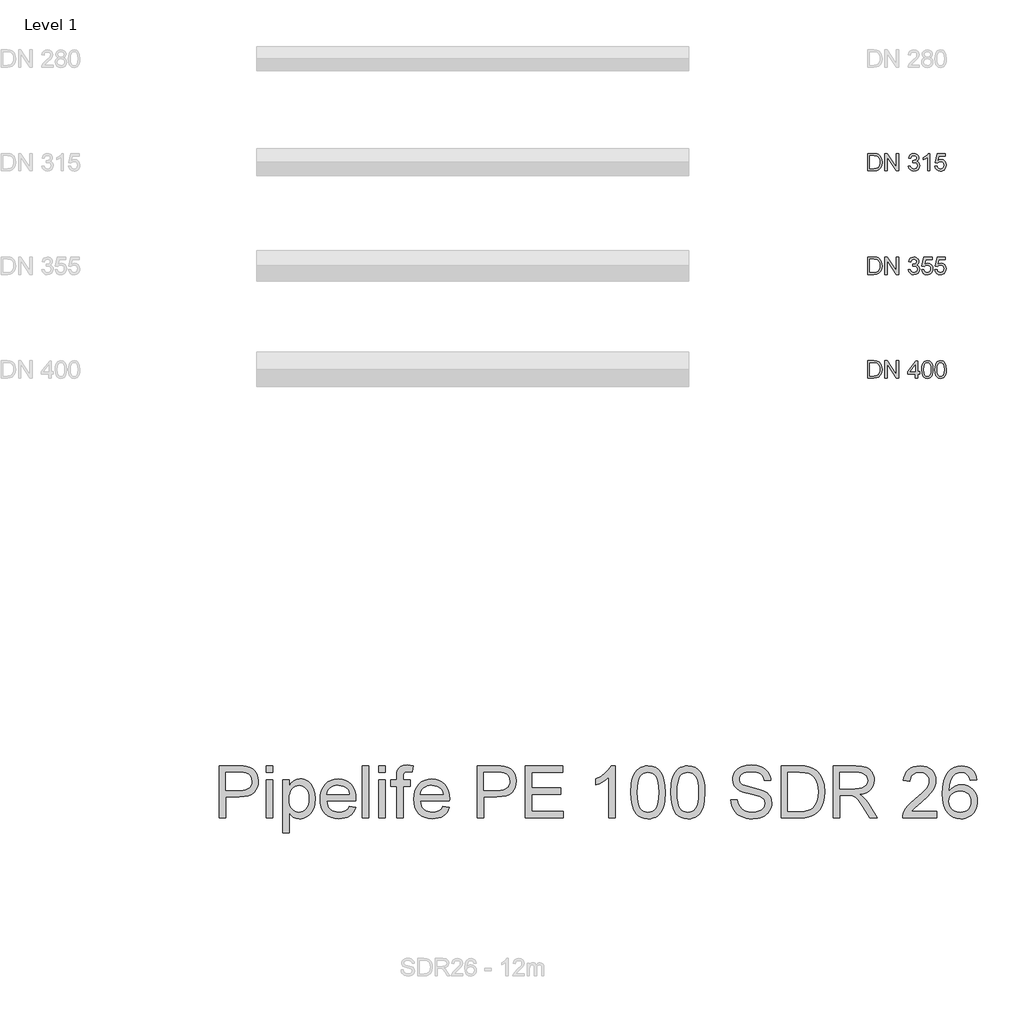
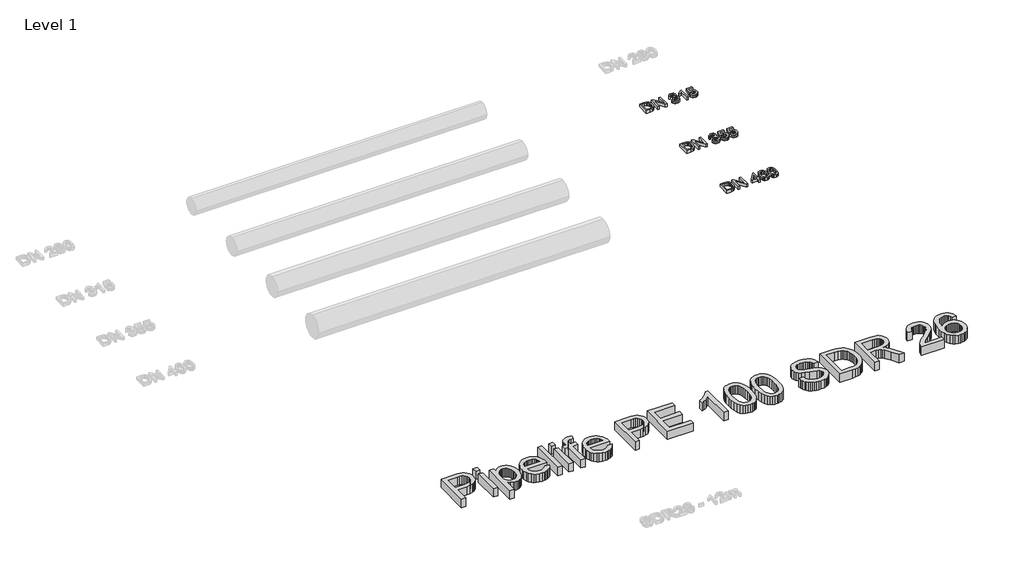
# One storey, part 7 of 26: 4 proxies.
"""IFC4 building model written with IfcOpenShell, lengths in millimetres."""

from ifc_helpers import new_model, si_unit, origin, origin_with_axes, place, context, project, spatial, polyline, outline, extrude, element, save

model = new_model("IFC4")

# Units and contexts
model_context = context("Model", 3, world=origin())
ifc_project = project(units=[si_unit("LENGTHUNIT", "METRE", prefix="MILLI")], contexts=[model_context])

# Site, building, storey
site = spatial("IfcSite", under=ifc_project)
building = spatial("IfcBuilding", under=site)
storey = spatial("IfcBuildingStorey", under=building, Name="Level 1", Elevation=0.0)

# Proxies
placement = place(None, origin())
element("IfcBuildingElementProxy", 1, Name="200mm Arial", ObjectType="200mm Arial", at=placement, inside=storey, context=model_context, shape_type="SweptSolid", body=[
    extrude(outline(polyline([(-9460.6923074, -82413.949573), (-9460.6923074, -82213.0369527), (-9391.3833395, -82213.0369527), (-9355.5271077, -82215.9309577), (-9339.5119782, -82221.5105013), (-9325.9984462, -82230.302881), (-9312.1047695, -82245.606772), (-9302.2087438, -82264.6385338), (-9296.2858437, -82287.0302846), (-9294.3115437, -82312.4141423), (-9299.6580953, -82352.9547382), (-9313.3923565, -82382.2136195), (-9331.7374053, -82400.436041), (-9355.7478369, -82410.5160077), (-9388.0478761, -82413.949573), (-9460.6923074, -82413.949573)]), holes=[polyline([(-9435.5782298, -82388.8354954), (-9391.1380848, -82388.8354954), (-9358.8135202, -82385.2057264), (-9340.1741658, -82374.9540815), (-9331.4492311, -82364.0831685), (-9324.8948002, -82350.0116822), (-9320.792916, -82332.6783089), (-9319.4256212, -82312.0217348), (-9322.1050284, -82284.6513144), (-9330.14325, -82264.4423301), (-9342.0197071, -82250.5609162), (-9356.2138207, -82242.1732067), (-9391.8247979, -82238.1510302), (-9435.5782298, -82238.1510302), (-9435.5782298, -82388.8354954)])]), origin_with_axes(), (0.0, 0.0, 1.0), 50.0),
    extrude(outline(polyline([(-9259.7796871, -82413.949573), (-9259.7796871, -82213.0369527), (-9232.899776, -82213.0369527), (-9127.93078, -82372.2072292), (-9127.93078, -82213.0369527), (-9102.8167025, -82213.0369527), (-9102.8167025, -82413.949573), (-9129.6966136, -82413.949573), (-9234.6656095, -82254.7302454), (-9234.6656095, -82413.949573), (-9259.7796871, -82413.949573)])), origin_with_axes(), (0.0, 0.0, 1.0), 50.0),
    extrude(outline(polyline([(-8989.8033535, -82360.5821582), (-8964.689276, -82357.4428985), (-8959.0668128, -82373.2250361), (-8950.8323875, -82383.8813512), (-8939.5813298, -82389.9514041), (-8924.9089696, -82391.9747551), (-8907.6920922, -82389.1911147), (-8894.3992895, -82380.8401934), (-8885.9012154, -82368.3812565), (-8883.068524, -82353.2735692), (-8885.8766899, -82338.9323028), (-8894.3011876, -82327.3011004), (-8907.0544301, -82319.5939726), (-8922.8488304, -82317.02493), (-8940.4581153, -82319.7717822), (-8937.6622121, -82294.6577047), (-8933.6400356, -82294.9520102), (-8918.593662, -82293.1493885), (-8905.1414437, -82287.7415231), (-8895.6500882, -82278.5935242), (-8892.4863031, -82265.5705016), (-8894.7794342, -82254.7241141), (-8901.6588275, -82245.925603), (-8912.1557271, -82240.0946734), (-8925.3013771, -82238.1510302), (-8938.4715525, -82240.1130675), (-8949.2382322, -82245.9991794), (-8957.0986442, -82255.809366), (-8961.5500163, -82269.5436271), (-8986.6640939, -82266.4043674), (-8979.2696657, -82243.8532011), (-8966.1117531, -82227.0164685), (-8948.1100608, -82216.5318316), (-8926.1842938, -82213.0369527), (-8910.3960249, -82214.7598667), (-8895.8953429, -82219.9286087), (-8883.6693979, -82228.0833263), (-8874.70534, -82238.7641669), (-8869.2055042, -82251.0698196), (-8867.3722255, -82264.0989736), (-8869.1135337, -82276.2390794), (-8874.337458, -82287.2510138), (-8882.9704221, -82296.6320047), (-8894.9388497, -82303.87928), (-8879.2180258, -82310.2313758), (-8867.5684293, -82321.0471064), (-8860.3579422, -82335.7378608), (-8857.9544465, -82353.7150276), (-8862.7614379, -82378.191443), (-8877.1824121, -82398.645682), (-8898.9487635, -82412.478045), (-8925.7918864, -82417.0888326), (-8950.0720981, -82413.1524953), (-8969.8396239, -82401.3434833), (-8983.5861478, -82383.2804773), (-8989.8033535, -82360.5821582)])), origin_with_axes(), (0.0, 0.0, 1.0), 50.0),
    extrude(outline(polyline([(-8741.8018379, -82413.949573), (-8766.9159154, -82413.949573), (-8766.9159154, -82257.3789958), (-8790.7056178, -82274.3260931), (-8817.1440705, -82287.0057592), (-8817.1440705, -82263.2651077), (-8780.3313455, -82239.769711), (-8766.8607331, -82226.1948653), (-8757.9886457, -82213.0369527), (-8741.8018379, -82213.0369527), (-8741.8018379, -82413.949573)])), origin_with_axes(), (0.0, 0.0, 1.0), 50.0),
    extrude(outline(polyline([(-8682.1559037, -82360.5821582), (-8657.0418262, -82357.4428985), (-8652.4310385, -82372.5199289), (-8644.3866855, -82383.3172655), (-8632.9455555, -82389.8103827), (-8618.1444366, -82391.9747551), (-8600.1427443, -82388.9642541), (-8586.6537378, -82379.9327511), (-8578.2292401, -82365.9225785), (-8575.4210742, -82347.9760685), (-8578.0514304, -82331.0780222), (-8585.9424992, -82318.1531014), (-8599.1555942, -82309.9493329), (-8617.7520291, -82307.2147434), (-8639.8004233, -82311.5802764), (-8653.9025665, -82322.9110419), (-8679.016644, -82319.7717822), (-8657.0418262, -82216.1762123), (-8559.7247757, -82216.1762123), (-8559.7247757, -82241.2902899), (-8636.73474, -82241.2902899), (-8647.4768943, -82296.619742), (-8629.5365157, -82285.7304349), (-8610.7377457, -82282.1006659), (-8587.2730058, -82286.601089), (-8567.7936541, -82300.1023582), (-8554.678661, -82320.6792244), (-8550.3069966, -82346.4064386), (-8554.243334, -82371.5205162), (-8566.052346, -82393.0048247), (-8576.487932, -82403.5415782), (-8588.664826, -82411.0678307), (-8602.5830282, -82415.5835821), (-8618.2425384, -82417.0888326), (-8642.9090262, -82413.2199403), (-8662.5600561, -82401.6132634), (-8676.0306685, -82383.6177025), (-8682.1559037, -82360.5821582)])), origin_with_axes(), (0.0, 0.0, 1.0), 50.0),
])
element("IfcBuildingElementProxy", 2, Name="200mm Arial", ObjectType="200mm Arial", at=placement, inside=storey, context=model_context, shape_type="SweptSolid", body=[
    extrude(outline(polyline([(-9460.6923074, -84813.949573), (-9460.6923074, -84613.0369527), (-9391.3833395, -84613.0369527), (-9355.5271077, -84615.9309577), (-9339.5119782, -84621.5105013), (-9325.9984462, -84630.302881), (-9312.1047695, -84645.606772), (-9302.2087438, -84664.6385338), (-9296.2858437, -84687.0302846), (-9294.3115437, -84712.4141423), (-9299.6580953, -84752.9547382), (-9313.3923565, -84782.2136195), (-9331.7374053, -84800.436041), (-9355.7478369, -84810.5160077), (-9388.0478761, -84813.949573), (-9460.6923074, -84813.949573)]), holes=[polyline([(-9435.5782298, -84788.8354954), (-9391.1380848, -84788.8354954), (-9358.8135202, -84785.2057264), (-9340.1741658, -84774.9540815), (-9331.4492311, -84764.0831685), (-9324.8948002, -84750.0116822), (-9320.792916, -84732.6783089), (-9319.4256212, -84712.0217348), (-9322.1050284, -84684.6513144), (-9330.14325, -84664.4423301), (-9342.0197071, -84650.5609162), (-9356.2138207, -84642.1732067), (-9391.8247979, -84638.1510302), (-9435.5782298, -84638.1510302), (-9435.5782298, -84788.8354954)])]), origin_with_axes(), (0.0, 0.0, 1.0), 50.0),
    extrude(outline(polyline([(-9259.7796871, -84813.949573), (-9259.7796871, -84613.0369527), (-9232.899776, -84613.0369527), (-9127.93078, -84772.2072292), (-9127.93078, -84613.0369527), (-9102.8167025, -84613.0369527), (-9102.8167025, -84813.949573), (-9129.6966136, -84813.949573), (-9234.6656095, -84654.7302454), (-9234.6656095, -84813.949573), (-9259.7796871, -84813.949573)])), origin_with_axes(), (0.0, 0.0, 1.0), 50.0),
    extrude(outline(polyline([(-8908.1826015, -84813.949573), (-8908.1826015, -84766.8606776), (-8999.2211326, -84766.8606776), (-8999.2211326, -84741.7466), (-8901.9040822, -84616.1762123), (-8883.068524, -84616.1762123), (-8883.068524, -84741.7466), (-8857.9544465, -84741.7466), (-8857.9544465, -84766.8606776), (-8883.068524, -84766.8606776), (-8883.068524, -84813.949573), (-8908.1826015, -84813.949573)]), holes=[polyline([(-8908.1826015, -84741.7466), (-8908.1826015, -84664.1480245), (-8968.319045, -84741.7466), (-8908.1826015, -84741.7466)])]), origin_with_axes(), (0.0, 0.0, 1.0), 50.0),
    extrude(outline(polyline([(-8835.9796286, -84715.1119436), (-8834.1340873, -84682.9529258), (-8828.5974633, -84657.3054194), (-8819.4249388, -84637.7770168), (-8806.6716963, -84623.9753106), (-8790.2457653, -84615.7715422), (-8770.0551751, -84613.0369527), (-8754.5796058, -84614.6556334), (-8740.7227173, -84619.5116758), (-8729.1344345, -84627.4150073), (-8720.4646821, -84638.1755557), (-8708.6924583, -84667.9004209), (-8704.1307216, -84715.1119436), (-8705.9578688, -84747.0870203), (-8711.4393105, -84772.6732131), (-8720.5566526, -84792.2200098), (-8733.291501, -84806.0768983), (-8749.7542203, -84814.335849), (-8770.0551751, -84817.0888326), (-8796.1502713, -84812.3063667), (-8815.9668481, -84797.9589689), (-8824.7224396, -84782.8298218), (-8830.9764335, -84763.9789353), (-8835.9796286, -84715.1119436)]), holes=[polyline([(-8810.8655511, -84715.0628927), (-8807.9224951, -84754.5672876), (-8799.0933272, -84777.4311536), (-8785.9476773, -84788.3388547), (-8770.0551751, -84791.9747551), (-8754.1626729, -84788.326592), (-8741.0170229, -84777.3821026), (-8732.1878551, -84754.5059739), (-8729.2447991, -84715.0628927), (-8732.0897532, -84676.4475459), (-8740.6246155, -84653.4058703), (-8753.74574, -84641.9647402), (-8770.3494807, -84638.1510302), (-8786.0703046, -84641.5110191), (-8798.7009198, -84651.5909857), (-8807.8243933, -84676.0674012), (-8810.8655511, -84715.0628927)])]), origin_with_axes(), (0.0, 0.0, 1.0), 50.0),
    extrude(outline(polyline([(-8682.1559037, -84715.1119436), (-8680.3103624, -84682.9529258), (-8674.7737383, -84657.3054194), (-8665.6012139, -84637.7770168), (-8652.8479714, -84623.9753106), (-8636.4220403, -84615.7715422), (-8616.2314502, -84613.0369527), (-8600.7558809, -84614.6556334), (-8586.8989924, -84619.5116758), (-8575.3107096, -84627.4150073), (-8566.6409572, -84638.1755557), (-8554.8687334, -84667.9004209), (-8550.3069966, -84715.1119436), (-8552.1341439, -84747.0870203), (-8557.6155856, -84772.6732131), (-8566.7329277, -84792.2200098), (-8579.4677761, -84806.0768983), (-8595.9304954, -84814.335849), (-8616.2314502, -84817.0888326), (-8642.3265464, -84812.3063667), (-8662.1431232, -84797.9589689), (-8670.8987147, -84782.8298218), (-8677.1527086, -84763.9789353), (-8682.1559037, -84715.1119436)]), holes=[polyline([(-8657.0418262, -84715.0628927), (-8654.0987702, -84754.5672876), (-8645.2696023, -84777.4311536), (-8632.1239524, -84788.3388547), (-8616.2314502, -84791.9747551), (-8600.338948, -84788.326592), (-8587.193298, -84777.3821026), (-8578.3641301, -84754.5059739), (-8575.4210742, -84715.0628927), (-8578.2660283, -84676.4475459), (-8586.8008906, -84653.4058703), (-8599.9220151, -84641.9647402), (-8616.5257558, -84638.1510302), (-8632.2465797, -84641.5110191), (-8644.8771949, -84651.5909857), (-8654.0006683, -84676.0674012), (-8657.0418262, -84715.0628927)])]), origin_with_axes(), (0.0, 0.0, 1.0), 50.0),
])
element("IfcBuildingElementProxy", 3, Name="200mm Arial", ObjectType="200mm Arial", at=placement, inside=storey, context=model_context, shape_type="SweptSolid", body=[
    extrude(outline(polyline([(-9460.6923074, -83613.949573), (-9460.6923074, -83413.0369527), (-9391.3833395, -83413.0369527), (-9355.5271077, -83415.9309577), (-9339.5119782, -83421.5105013), (-9325.9984462, -83430.302881), (-9312.1047695, -83445.606772), (-9302.2087438, -83464.6385338), (-9296.2858437, -83487.0302846), (-9294.3115437, -83512.4141423), (-9299.6580953, -83552.9547382), (-9313.3923565, -83582.2136195), (-9331.7374053, -83600.436041), (-9355.7478369, -83610.5160077), (-9388.0478761, -83613.949573), (-9460.6923074, -83613.949573)]), holes=[polyline([(-9435.5782298, -83588.8354954), (-9391.1380848, -83588.8354954), (-9358.8135202, -83585.2057264), (-9340.1741658, -83574.9540815), (-9331.4492311, -83564.0831685), (-9324.8948002, -83550.0116822), (-9320.792916, -83532.6783089), (-9319.4256212, -83512.0217348), (-9322.1050284, -83484.6513144), (-9330.14325, -83464.4423301), (-9342.0197071, -83450.5609162), (-9356.2138207, -83442.1732067), (-9391.8247979, -83438.1510302), (-9435.5782298, -83438.1510302), (-9435.5782298, -83588.8354954)])]), origin_with_axes(), (0.0, 0.0, 1.0), 50.0),
    extrude(outline(polyline([(-9259.7796871, -83613.949573), (-9259.7796871, -83413.0369527), (-9232.899776, -83413.0369527), (-9127.93078, -83572.2072292), (-9127.93078, -83413.0369527), (-9102.8167025, -83413.0369527), (-9102.8167025, -83613.949573), (-9129.6966136, -83613.949573), (-9234.6656095, -83454.7302454), (-9234.6656095, -83613.949573), (-9259.7796871, -83613.949573)])), origin_with_axes(), (0.0, 0.0, 1.0), 50.0),
    extrude(outline(polyline([(-8989.8033535, -83560.5821582), (-8964.689276, -83557.4428985), (-8959.0668128, -83573.2250361), (-8950.8323875, -83583.8813512), (-8939.5813298, -83589.9514041), (-8924.9089696, -83591.9747551), (-8907.6920922, -83589.1911147), (-8894.3992895, -83580.8401934), (-8885.9012154, -83568.3812565), (-8883.068524, -83553.2735692), (-8885.8766899, -83538.9323028), (-8894.3011876, -83527.3011004), (-8907.0544301, -83519.5939726), (-8922.8488304, -83517.02493), (-8940.4581153, -83519.7717822), (-8937.6622121, -83494.6577047), (-8933.6400356, -83494.9520102), (-8918.593662, -83493.1493885), (-8905.1414437, -83487.7415231), (-8895.6500882, -83478.5935242), (-8892.4863031, -83465.5705016), (-8894.7794342, -83454.7241141), (-8901.6588275, -83445.925603), (-8912.1557271, -83440.0946734), (-8925.3013771, -83438.1510302), (-8938.4715525, -83440.1130675), (-8949.2382322, -83445.9991794), (-8957.0986442, -83455.809366), (-8961.5500163, -83469.5436271), (-8986.6640939, -83466.4043674), (-8979.2696657, -83443.8532011), (-8966.1117531, -83427.0164685), (-8948.1100608, -83416.5318316), (-8926.1842938, -83413.0369527), (-8910.3960249, -83414.7598667), (-8895.8953429, -83419.9286087), (-8883.6693979, -83428.0833263), (-8874.70534, -83438.7641669), (-8869.2055042, -83451.0698196), (-8867.3722255, -83464.0989736), (-8869.1135337, -83476.2390794), (-8874.337458, -83487.2510138), (-8882.9704221, -83496.6320047), (-8894.9388497, -83503.87928), (-8879.2180258, -83510.2313758), (-8867.5684293, -83521.0471064), (-8860.3579422, -83535.7378608), (-8857.9544465, -83553.7150276), (-8862.7614379, -83578.191443), (-8877.1824121, -83598.645682), (-8898.9487635, -83612.478045), (-8925.7918864, -83617.0888326), (-8950.0720981, -83613.1524953), (-8969.8396239, -83601.3434833), (-8983.5861478, -83583.2804773), (-8989.8033535, -83560.5821582)])), origin_with_axes(), (0.0, 0.0, 1.0), 50.0),
    extrude(outline(polyline([(-8835.9796286, -83560.5821582), (-8810.8655511, -83557.4428985), (-8806.2547634, -83572.5199289), (-8798.2104105, -83583.3172655), (-8786.7692804, -83589.8103827), (-8771.9681615, -83591.9747551), (-8753.9664692, -83588.9642541), (-8740.4774627, -83579.9327511), (-8732.052965, -83565.9225785), (-8729.2447991, -83547.9760685), (-8731.8751554, -83531.0780222), (-8739.7662242, -83518.1531014), (-8752.9793191, -83509.9493329), (-8771.575754, -83507.2147434), (-8793.6241482, -83511.5802764), (-8807.7262914, -83522.9110419), (-8832.8403689, -83519.7717822), (-8810.8655511, -83416.1762123), (-8713.5485006, -83416.1762123), (-8713.5485006, -83441.2902899), (-8790.558465, -83441.2902899), (-8801.3006192, -83496.619742), (-8783.3602406, -83485.7304349), (-8764.5614706, -83482.1006659), (-8741.0967307, -83486.601089), (-8721.6173791, -83500.1023582), (-8708.5023859, -83520.6792244), (-8704.1307216, -83546.4064386), (-8708.0670589, -83571.5205162), (-8719.876071, -83593.0048247), (-8730.3116569, -83603.5415782), (-8742.4885509, -83611.0678307), (-8756.4067531, -83615.5835821), (-8772.0662633, -83617.0888326), (-8796.7327511, -83613.2199403), (-8816.383781, -83601.6132634), (-8829.8543934, -83583.6177025), (-8835.9796286, -83560.5821582)])), origin_with_axes(), (0.0, 0.0, 1.0), 50.0),
    extrude(outline(polyline([(-8682.1559037, -83560.5821582), (-8657.0418262, -83557.4428985), (-8652.4310385, -83572.5199289), (-8644.3866855, -83583.3172655), (-8632.9455555, -83589.8103827), (-8618.1444366, -83591.9747551), (-8600.1427443, -83588.9642541), (-8586.6537378, -83579.9327511), (-8578.2292401, -83565.9225785), (-8575.4210742, -83547.9760685), (-8578.0514304, -83531.0780222), (-8585.9424992, -83518.1531014), (-8599.1555942, -83509.9493329), (-8617.7520291, -83507.2147434), (-8639.8004233, -83511.5802764), (-8653.9025665, -83522.9110419), (-8679.016644, -83519.7717822), (-8657.0418262, -83416.1762123), (-8559.7247757, -83416.1762123), (-8559.7247757, -83441.2902899), (-8636.73474, -83441.2902899), (-8647.4768943, -83496.619742), (-8629.5365157, -83485.7304349), (-8610.7377457, -83482.1006659), (-8587.2730058, -83486.601089), (-8567.7936541, -83500.1023582), (-8554.678661, -83520.6792244), (-8550.3069966, -83546.4064386), (-8554.243334, -83571.5205162), (-8566.052346, -83593.0048247), (-8576.487932, -83603.5415782), (-8588.664826, -83611.0678307), (-8602.5830282, -83615.5835821), (-8618.2425384, -83617.0888326), (-8642.9090262, -83613.2199403), (-8662.5600561, -83601.6132634), (-8676.0306685, -83583.6177025), (-8682.1559037, -83560.5821582)])), origin_with_axes(), (0.0, 0.0, 1.0), 50.0),
])
element("IfcBuildingElementProxy", 4, Name="600mm Arial", ObjectType="600mm Arial", at=placement, inside=storey, context=model_context, shape_type="SweptSolid", body=[
    extrude(outline(polyline([(-16966.7426717, -89909.5373902), (-16966.7426717, -89306.7995293), (-16743.3647242, -89306.7995293), (-16691.3462101, -89308.2342691), (-16653.3072118, -89312.5384884), (-16613.152892, -89323.2622486), (-16580.0986947, -89340.7182492), (-16553.4824324, -89365.6974367), (-16532.6419174, -89398.9907573), (-16519.1774363, -89438.2621602), (-16514.689276, -89481.175595), (-16517.7197039, -89518.1753266), (-16526.8109877, -89552.2136083), (-16541.9631274, -89583.2904398), (-16563.176123, -89611.4058213), (-16592.2985814, -89634.7111457), (-16631.1791098, -89651.357806), (-16679.8177081, -89661.3458021), (-16738.2143763, -89664.6751342), (-16891.4004391, -89664.6751342), (-16891.4004391, -89909.5373902), (-16966.7426717, -89909.5373902)]), holes=[polyline([(-16891.4004391, -89589.3329016), (-16733.7997923, -89589.3329016), (-16697.5634158, -89587.6038562), (-16666.992422, -89582.4167201), (-16642.0868109, -89573.7714932), (-16622.8465826, -89561.6681755), (-16608.4899877, -89546.4286639), (-16598.2352771, -89528.374855), (-16592.0824507, -89507.5067488), (-16590.0315086, -89483.8243453), (-16594.8691569, -89449.9792018), (-16609.3821016, -89421.431559), (-16631.767721, -89399.9472504), (-16660.2233933, -89387.2921098), (-16689.2860709, -89383.4293489), (-16735.5656259, -89382.1417619), (-16891.4004391, -89382.1417619), (-16891.4004391, -89589.3329016)])]), origin_with_axes(), (0.0, 0.0, 1.0), 150.0),
    extrude(outline(polyline([(-16420.5114852, -89909.5373902), (-16420.5114852, -89466.9017736), (-16345.1692526, -89466.9017736), (-16345.1692526, -89909.5373902), (-16420.5114852, -89909.5373902)])), origin_with_axes(), (0.0, 0.0, 1.0), 150.0),
    extrude(outline(polyline([(-16420.5114852, -89382.1417619), (-16420.5114852, -89306.7995293), (-16345.1692526, -89306.7995293), (-16345.1692526, -89382.1417619), (-16420.5114852, -89382.1417619)])), origin_with_axes(), (0.0, 0.0, 1.0), 150.0),
    extrude(outline(polyline([(-16232.1559037, -90079.0574135), (-16232.1559037, -89466.9017736), (-16156.8136711, -89466.9017736), (-16156.8136711, -89540.7724782), (-16132.2391538, -89504.3337666), (-16104.7215806, -89478.3061154), (-16072.6422706, -89462.6895247), (-16034.3825431, -89457.4839945), (-16008.1065716, -89459.3050104), (-15983.4308868, -89464.768058), (-15960.3554886, -89473.8731374), (-15938.8803772, -89486.6202485), (-15919.4746019, -89502.6782976), (-15902.6072124, -89521.7161909), (-15888.2782087, -89543.7339283), (-15876.4875908, -89568.7315098), (-15860.7054532, -89624.2449029), (-15855.4447407, -89684.8350675), (-15861.3860349, -89749.269599), (-15868.8126527, -89778.9346834), (-15879.2099175, -89806.8983135), (-15892.4352753, -89832.429324), (-15908.3461716, -89854.7965493), (-15926.9426064, -89873.9999894), (-15948.2245798, -89890.0396444), (-15971.1482267, -89902.6901865), (-15994.6696817, -89911.726288), (-16018.788945, -89917.1479489), (-16043.5060166, -89918.9551692), (-16078.1421064, -89914.117521), (-16109.0625881, -89899.6045763), (-16135.5316977, -89877.6972035), (-16156.8136711, -89850.6762709), (-16156.8136711, -90079.0574135), (-16232.1559037, -90079.0574135)]), holes=[polyline([(-16156.8136711, -89691.751249), (-16154.7765246, -89728.0612019), (-16148.6650849, -89759.2943833), (-16138.4793522, -89785.4507932), (-16124.2193263, -89806.5304315), (-16107.0530327, -89822.7540275), (-16088.1484967, -89834.3423104), (-16067.5057182, -89841.2952801), (-16045.1246974, -89843.6129366), (-16022.4217797, -89841.2125066), (-16001.4019222, -89834.0112166), (-15982.0651249, -89822.0090665), (-15964.4113876, -89805.2060563), (-15949.7007063, -89783.3630629), (-15939.1930769, -89756.2409628), (-15932.8884992, -89723.8397561), (-15930.7869733, -89686.1594427), (-15932.8379154, -89650.1621895), (-15938.9907418, -89618.9841904), (-15949.2454524, -89592.6254454), (-15963.6020472, -89571.0859546), (-15980.8097276, -89554.3473238), (-15999.6176946, -89542.391159), (-16020.0259482, -89535.2174601), (-16042.0344886, -89532.8262271), (-16063.9740511, -89535.3692114), (-16084.6168295, -89542.9981643), (-16103.962824, -89555.7130857), (-16122.0120344, -89573.5139758), (-16137.2377504, -89596.1617111), (-16148.1132619, -89623.4171684), (-16154.6385688, -89655.2803477), (-16156.8136711, -89691.751249)])]), origin_with_axes(), (0.0, 0.0, 1.0), 150.0),
    extrude(outline(polyline([(-15460.7809362, -89777.6884831), (-15386.9102316, -89787.1062622), (-15398.2363985, -89816.6931716), (-15413.5264939, -89842.766808), (-15432.7805179, -89865.3271714), (-15455.9984703, -89884.3742617), (-15482.9412279, -89899.5034087), (-15513.3696674, -89910.3099424), (-15547.2837889, -89916.7938625), (-15584.6835922, -89918.9551692), (-15631.4321967, -89915.2257655), (-15673.0856356, -89904.0375543), (-15709.6439089, -89885.3905357), (-15741.1070165, -89859.2847096), (-15766.4081008, -89826.446643), (-15784.4803038, -89787.6029029), (-15795.3236256, -89742.7534891), (-15798.9380662, -89691.8984018), (-15795.2868374, -89639.3188677), (-15784.333151, -89592.9749333), (-15766.077007, -89552.8665988), (-15740.5184054, -89518.9938641), (-15709.1380712, -89492.0832961), (-15673.4167294, -89472.8614619), (-15633.3543802, -89461.3283613), (-15588.9510233, -89457.4839945), (-15545.9778078, -89461.3191643), (-15507.1156735, -89472.8246737), (-15472.3646205, -89492.0005227), (-15441.7246489, -89518.8467113), (-15416.7132717, -89552.6458696), (-15398.8480023, -89592.6806277), (-15388.1288407, -89638.9509857), (-15384.5557868, -89691.4569434), (-15384.9972452, -89711.7640296), (-15723.5958336, -89711.7640296), (-15719.2318334, -89741.8291856), (-15710.5544169, -89768.1603394), (-15697.5635839, -89790.757491), (-15680.2593345, -89809.6206403), (-15659.598162, -89824.4922699), (-15636.5365594, -89835.1148625), (-15611.0745268, -89841.4884181), (-15583.2120642, -89843.6129366), (-15543.1129267, -89839.6765993), (-15509.3413596, -89827.8675872), (-15481.8973627, -89807.4501365), (-15460.7809362, -89777.6884831)]), holes=[polyline([(-15723.5958336, -89636.4217969), (-15459.8980194, -89636.4217969), (-15470.0883507, -89596.6169651), (-15478.8531392, -89580.9635862), (-15490.064343, -89568.1428986), (-15510.6105525, -89552.6918548), (-15533.9894533, -89541.655395), (-15560.2010454, -89535.0335191), (-15589.2453289, -89532.8262271), (-15615.7374311, -89534.5874622), (-15640.0314384, -89539.8711673), (-15662.1273507, -89548.6773426), (-15682.0251681, -89561.0059879), (-15698.7224122, -89576.2868863), (-15711.2166044, -89593.9498206), (-15719.5077449, -89613.9947908), (-15723.5958336, -89636.4217969)])]), origin_with_axes(), (0.0, 0.0, 1.0), 150.0),
    extrude(outline(polyline([(-15309.2135542, -89909.5373902), (-15309.2135542, -89306.7995293), (-15233.8713216, -89306.7995293), (-15233.8713216, -89909.5373902), (-15309.2135542, -89909.5373902)])), origin_with_axes(), (0.0, 0.0, 1.0), 150.0),
    extrude(outline(polyline([(-15120.8579727, -89382.1417619), (-15120.8579727, -89306.7995293), (-15045.5157401, -89306.7995293), (-15045.5157401, -89382.1417619), (-15120.8579727, -89382.1417619)])), origin_with_axes(), (0.0, 0.0, 1.0), 150.0),
    extrude(outline(polyline([(-15120.8579727, -89909.5373902), (-15120.8579727, -89466.9017736), (-15045.5157401, -89466.9017736), (-15045.5157401, -89909.5373902), (-15120.8579727, -89909.5373902)])), origin_with_axes(), (0.0, 0.0, 1.0), 150.0),
    extrude(outline(polyline([(-14913.666833, -89909.5373902), (-14913.666833, -89542.2440062), (-14979.5912865, -89542.2440062), (-14979.5912865, -89466.9017736), (-14913.666833, -89466.9017736), (-14913.666833, -89422.3144758), (-14911.6802702, -89385.4159116), (-14905.7205819, -89359.480231), (-14890.5638437, -89334.4274671), (-14867.1665488, -89314.5986276), (-14834.4250512, -89301.6859695), (-14791.235705, -89297.3817502), (-14758.5309956, -89299.4418894), (-14722.5153483, -89305.6223069), (-14733.5518082, -89376.25565), (-14776.9618836, -89372.7239828), (-14805.6014969, -89375.8509798), (-14824.418661, -89385.2319706), (-14834.8481155, -89403.1478238), (-14838.3246004, -89431.8794076), (-14838.3246004, -89466.9017736), (-14753.5645887, -89466.9017736), (-14753.5645887, -89542.2440062), (-14838.3246004, -89542.2440062), (-14838.3246004, -89909.5373902), (-14913.666833, -89909.5373902)])), origin_with_axes(), (0.0, 0.0, 1.0), 150.0),
    extrude(outline(polyline([(-14377.7363424, -89777.6884831), (-14303.8656378, -89787.1062622), (-14315.1918047, -89816.6931716), (-14330.4819001, -89842.766808), (-14349.7359241, -89865.3271714), (-14372.9538765, -89884.3742617), (-14399.8966341, -89899.5034087), (-14430.3250736, -89910.3099424), (-14464.2391951, -89916.7938625), (-14501.6389984, -89918.9551692), (-14548.3876029, -89915.2257655), (-14590.0410418, -89904.0375543), (-14626.5993151, -89885.3905357), (-14658.0624227, -89859.2847096), (-14683.363507, -89826.446643), (-14701.43571, -89787.6029029), (-14712.2790318, -89742.7534891), (-14715.8934724, -89691.8984018), (-14712.2422436, -89639.3188677), (-14701.2885572, -89592.9749333), (-14683.0324132, -89552.8665988), (-14657.4738116, -89518.9938641), (-14626.0934774, -89492.0832961), (-14590.3721356, -89472.8614619), (-14550.3097864, -89461.3283613), (-14505.9064295, -89457.4839945), (-14462.933214, -89461.3191643), (-14424.0710797, -89472.8246737), (-14389.3200267, -89492.0005227), (-14358.6800551, -89518.8467113), (-14333.6686779, -89552.6458696), (-14315.8034085, -89592.6806277), (-14305.0842469, -89638.9509857), (-14301.511193, -89691.4569434), (-14301.9526514, -89711.7640296), (-14640.5512398, -89711.7640296), (-14636.1872396, -89741.8291856), (-14627.509823, -89768.1603394), (-14614.5189901, -89790.757491), (-14597.2147407, -89809.6206403), (-14576.5535682, -89824.4922699), (-14553.4919656, -89835.1148625), (-14528.029933, -89841.4884181), (-14500.1674704, -89843.6129366), (-14460.0683329, -89839.6765993), (-14426.2967658, -89827.8675872), (-14398.8527689, -89807.4501365), (-14377.7363424, -89777.6884831)]), holes=[polyline([(-14640.5512398, -89636.4217969), (-14376.8534256, -89636.4217969), (-14387.0437569, -89596.6169651), (-14395.8085454, -89580.9635862), (-14407.0197492, -89568.1428986), (-14427.5659587, -89552.6918548), (-14450.9448595, -89541.655395), (-14477.1564516, -89535.0335191), (-14506.2007351, -89532.8262271), (-14532.6928373, -89534.5874622), (-14556.9868446, -89539.8711673), (-14579.0827569, -89548.6773426), (-14598.9805743, -89561.0059879), (-14615.6778184, -89576.2868863), (-14628.1720106, -89593.9498206), (-14636.4631511, -89613.9947908), (-14640.5512398, -89636.4217969)])]), origin_with_axes(), (0.0, 0.0, 1.0), 150.0),
    extrude(outline(polyline([(-13981.3067044, -89909.5373902), (-13981.3067044, -89306.7995293), (-13757.928757, -89306.7995293), (-13705.9102428, -89308.2342691), (-13667.8712445, -89312.5384884), (-13627.7169248, -89323.2622486), (-13594.6627275, -89340.7182492), (-13568.0464651, -89365.6974367), (-13547.2059501, -89398.9907573), (-13533.7414691, -89438.2621602), (-13529.2533087, -89481.175595), (-13532.2837367, -89518.1753266), (-13541.3750205, -89552.2136083), (-13556.5271602, -89583.2904398), (-13577.7401557, -89611.4058213), (-13606.8626142, -89634.7111457), (-13645.7431425, -89651.357806), (-13694.3817408, -89661.3458021), (-13752.778409, -89664.6751342), (-13905.9644718, -89664.6751342), (-13905.9644718, -89909.5373902), (-13981.3067044, -89909.5373902)]), holes=[polyline([(-13905.9644718, -89589.3329016), (-13748.3638251, -89589.3329016), (-13712.1274486, -89587.6038562), (-13681.5564548, -89582.4167201), (-13656.6508437, -89573.7714932), (-13637.4106153, -89561.6681755), (-13623.0540205, -89546.4286639), (-13612.7993099, -89528.374855), (-13606.6464835, -89507.5067488), (-13604.5955414, -89483.8243453), (-13609.4331896, -89449.9792018), (-13623.9461343, -89421.431559), (-13646.3317537, -89399.9472504), (-13674.787426, -89387.2921098), (-13703.8501037, -89383.4293489), (-13750.1296587, -89382.1417619), (-13905.9644718, -89382.1417619), (-13905.9644718, -89589.3329016)])]), origin_with_axes(), (0.0, 0.0, 1.0), 150.0),
    extrude(outline(polyline([(-13425.6577389, -89909.5373902), (-13425.6577389, -89306.7995293), (-12992.4399014, -89306.7995293), (-12992.4399014, -89382.1417619), (-13350.3155063, -89382.1417619), (-13350.3155063, -89561.0795643), (-13011.2754595, -89561.0795643), (-13011.2754595, -89636.4217969), (-13350.3155063, -89636.4217969), (-13350.3155063, -89834.1951576), (-12983.0221223, -89834.1951576), (-12983.0221223, -89909.5373902), (-13425.6577389, -89909.5373902)])), origin_with_axes(), (0.0, 0.0, 1.0), 150.0),
    extrude(outline(polyline([(-12380.2842614, -89909.5373902), (-12455.626494, -89909.5373902), (-12455.626494, -89439.8256587), (-12487.0804046, -89465.2646987), (-12526.9956011, -89490.6669505), (-12568.8973603, -89512.8686289), (-12606.3109592, -89528.7059488), (-12606.3109592, -89457.4839945), (-12547.1371403, -89425.2943199), (-12495.8727843, -89386.9978042), (-12455.4609471, -89346.2732674), (-12428.8446848, -89306.7995293), (-12380.2842614, -89306.7995293), (-12380.2842614, -89909.5373902)])), origin_with_axes(), (0.0, 0.0, 1.0), 150.0),
    extrude(outline(polyline([(-12201.346459, -89613.0245021), (-12195.8098349, -89516.5474488), (-12188.8890549, -89475.6343724), (-12179.1999628, -89439.6049295), (-12166.7839455, -89408.1648145), (-12151.6823896, -89381.0197218), (-12133.8952951, -89358.1696514), (-12113.4226621, -89339.6146032), (-12090.1955126, -89325.2580084), (-12064.1448689, -89315.0032978), (-12035.2707308, -89308.8504714), (-12003.5730984, -89306.7995293), (-11957.1463906, -89311.6555716), (-11915.5757251, -89326.2236986), (-11880.8108766, -89349.9336932), (-11854.8016195, -89382.2153383), (-11835.156721, -89422.7927223), (-11819.484948, -89471.3899339), (-11809.2210403, -89533.1021386), (-11805.7997377, -89613.0245021), (-11811.2811795, -89708.9497323), (-11818.1329816, -89749.7248529), (-11827.7255047, -89785.7083106), (-11840.044953, -89817.1622212), (-11855.077531, -89844.3487006), (-11872.8232387, -89867.2677489), (-11893.2820762, -89885.9193661), (-11916.5368168, -89900.37253), (-11942.670234, -89910.6962185), (-11971.6823279, -89916.8904315), (-12003.5730984, -89918.9551692), (-12045.0701874, -89915.3683198), (-12081.8583869, -89904.6077714), (-12113.9376969, -89886.6735242), (-12141.3081173, -89861.565578), (-12167.5748918, -89816.1781368), (-12186.3368736, -89759.6254771), (-12197.5940626, -89691.9075989), (-12201.346459, -89613.0245021)]), holes=[polyline([(-12126.0042263, -89612.8773493), (-12123.7969344, -89678.37414), (-12117.1750585, -89731.390534), (-12106.1385986, -89771.9265313), (-12090.6875548, -89799.982132), (-12071.9991495, -89819.070609), (-12051.2506049, -89832.7052355), (-12028.4419212, -89840.8860113), (-12003.5730984, -89843.6129366), (-11978.7042755, -89840.8768143), (-11955.8955918, -89832.6684473), (-11935.1470472, -89818.9878356), (-11916.4586419, -89799.8349792), (-11901.0075981, -89771.7333933), (-11889.9711382, -89731.206593), (-11883.3492623, -89678.2545783), (-11881.1419704, -89612.8773493), (-11883.2756859, -89549.1142024), (-11889.6768326, -89497.031309), (-11900.3454105, -89456.6286689), (-11915.2814195, -89427.9062821), (-11933.6571252, -89407.8843045), (-11954.644793, -89393.5828919), (-11978.244423, -89385.0020444), (-12004.4560151, -89382.1417619), (-12029.1960793, -89384.6617535), (-12051.6184869, -89392.2217286), (-12071.723238, -89404.8216869), (-12089.5103324, -89422.4616286), (-12105.476411, -89453.7315981), (-12116.8807529, -89495.8908748), (-12123.723358, -89548.9394585), (-12126.0042263, -89612.8773493)])]), origin_with_axes(), (0.0, 0.0, 1.0), 150.0),
    extrude(outline(polyline([(-11739.8752842, -89613.0245021), (-11734.3386602, -89516.5474488), (-11727.4178801, -89475.6343724), (-11717.7287881, -89439.6049295), (-11705.3127708, -89408.1648145), (-11690.2112149, -89381.0197218), (-11672.4241204, -89358.1696514), (-11651.9514874, -89339.6146032), (-11628.7243379, -89325.2580084), (-11602.6736941, -89315.0032978), (-11573.799556, -89308.8504714), (-11542.1019236, -89306.7995293), (-11495.6752158, -89311.6555716), (-11454.1045504, -89326.2236986), (-11419.3397018, -89349.9336932), (-11393.3304448, -89382.2153383), (-11373.6855462, -89422.7927223), (-11358.0137732, -89471.3899339), (-11347.7498655, -89533.1021386), (-11344.328563, -89613.0245021), (-11349.8100047, -89708.9497323), (-11356.6618069, -89749.7248529), (-11366.2543299, -89785.7083106), (-11378.5737782, -89817.1622212), (-11393.6063562, -89844.3487006), (-11411.352064, -89867.2677489), (-11431.8109014, -89885.9193661), (-11455.0656421, -89900.37253), (-11481.1990593, -89910.6962185), (-11510.2111531, -89916.8904315), (-11542.1019236, -89918.9551692), (-11583.5990127, -89915.3683198), (-11620.3872122, -89904.6077714), (-11652.4665222, -89886.6735242), (-11679.8369426, -89861.565578), (-11706.1037171, -89816.1781368), (-11724.8656988, -89759.6254771), (-11736.1228879, -89691.9075989), (-11739.8752842, -89613.0245021)]), holes=[polyline([(-11664.5330516, -89612.8773493), (-11662.3257596, -89678.37414), (-11655.7038837, -89731.390534), (-11644.6674239, -89771.9265313), (-11629.2163801, -89799.982132), (-11610.5279747, -89819.070609), (-11589.7794302, -89832.7052355), (-11566.9707465, -89840.8860113), (-11542.1019236, -89843.6129366), (-11517.2331007, -89840.8768143), (-11494.424417, -89832.6684473), (-11473.6758725, -89818.9878356), (-11454.9874671, -89799.8349792), (-11439.5364233, -89771.7333933), (-11428.4999635, -89731.206593), (-11421.8780876, -89678.2545783), (-11419.6707956, -89612.8773493), (-11421.8045112, -89549.1142024), (-11428.2056579, -89497.031309), (-11438.8742358, -89456.6286689), (-11453.8102448, -89427.9062821), (-11472.1859504, -89407.8843045), (-11493.1736182, -89393.5828919), (-11516.7732482, -89385.0020444), (-11542.9848404, -89382.1417619), (-11567.7249046, -89384.6617535), (-11590.1473122, -89392.2217286), (-11610.2520632, -89404.8216869), (-11628.0391577, -89422.4616286), (-11644.0052363, -89453.7315981), (-11655.4095781, -89495.8908748), (-11662.2521832, -89548.9394585), (-11664.5330516, -89612.8773493)])]), origin_with_axes(), (0.0, 0.0, 1.0), 150.0),
    extrude(outline(polyline([(-11042.9596325, -89702.3462505), (-10967.6173999, -89702.3462505), (-10958.972173, -89744.1560392), (-10943.3371883, -89777.7620595), (-10918.946612, -89804.4335041), (-10884.0346106, -89825.4395661), (-10841.3602992, -89839.069594), (-10793.6827926, -89843.6129366), (-10751.707457, -89840.17324), (-10714.9560456, -89829.85415), (-10685.1759981, -89813.5201894), (-10664.1147539, -89792.0358809), (-10651.588372, -89767.3693931), (-10647.4129113, -89741.4888948), (-10650.5399083, -89716.270584), (-10659.9208992, -89694.4735758), (-10678.9771865, -89675.8771409), (-10711.1300729, -89660.2605502), (-10820.8324839, -89631.4921782), (-10892.8453844, -89612.454285), (-10938.9226043, -89594.3360967), (-10976.4281737, -89568.9890272), (-11003.0076479, -89538.2708806), (-11018.8449678, -89502.8438445), (-11024.1240744, -89463.3701064), (-11022.491598, -89440.9339032), (-11017.594169, -89419.2426611), (-11009.4317872, -89398.29638), (-10998.0044527, -89378.0950599), (-10983.4409243, -89359.4618369), (-10965.8699605, -89343.2198468), (-10945.2915614, -89329.3690897), (-10921.7057269, -89317.9095655), (-10868.6939314, -89302.513704), (-10810.0167532, -89297.3817502), (-10746.4467444, -89302.7528273), (-10690.8229868, -89318.8660587), (-10666.4875928, -89330.8682088), (-10645.132043, -89345.3903506), (-10626.7563373, -89362.432484), (-10611.3604758, -89381.9946091), (-10599.0640201, -89403.5065088), (-10589.9865319, -89426.3979659), (-10584.1280111, -89450.6689805), (-10581.4884578, -89476.3195526), (-10656.8306904, -89476.3195526), (-10661.8706737, -89452.2784643), (-10670.6630534, -89431.3643728), (-10683.2078295, -89413.5772784), (-10699.5050018, -89398.9171809), (-10719.8580732, -89387.4576567), (-10744.5705463, -89379.2722823), (-10773.6424209, -89374.3610577), (-10807.0736972, -89372.7239828), (-10841.5718313, -89374.3426636), (-10871.0483762, -89379.1987059), (-10895.5033318, -89387.2921098), (-10914.9366982, -89398.6228753), (-10929.7439485, -89412.2437061), (-10940.3205559, -89427.2073063), (-10946.6665203, -89443.5136757), (-10948.7818418, -89461.1628144), (-10947.2827227, -89476.3471438), (-10942.7853653, -89490.1151275), (-10935.2897696, -89502.4667655), (-10924.7959357, -89513.4020578), (-10908.2780341, -89523.7579359), (-10882.2687771, -89534.2241787), (-10801.7761965, -89555.487758), (-10718.708442, -89575.6844795), (-10668.4557615, -89593.3060271), (-10625.5055385, -89620.6396594), (-10608.900265, -89636.7069055), (-10595.54155, -89654.3744383), (-10585.2730438, -89673.5502873), (-10577.9383965, -89694.142482), (-10572.0706787, -89739.5759084), (-10573.7583374, -89763.1433487), (-10578.8213133, -89786.0210103), (-10587.2596066, -89808.2088931), (-10599.0732172, -89829.7069972), (-10614.0552114, -89849.6829896), (-10631.9986557, -89867.3045371), (-10652.9035501, -89882.5716399), (-10676.7698945, -89895.484298), (-10702.9033118, -89905.7528041), (-10730.6094245, -89913.0874514), (-10790.7397367, -89918.9551692), (-10829.2799742, -89917.3732767), (-10864.555259, -89912.6275989), (-10896.5655911, -89904.718136), (-10925.3109705, -89893.644888), (-10950.9661411, -89879.3894607), (-10973.705847, -89861.93346), (-10993.530088, -89841.276886), (-11010.4388642, -89817.4197386), (-11024.059695, -89791.13457), (-11034.0201001, -89763.1939325), (-11040.3200792, -89733.597826), (-11042.9596325, -89702.3462505)])), origin_with_axes(), (0.0, 0.0, 1.0), 150.0),
    extrude(outline(polyline([(-10459.0573298, -89909.5373902), (-10459.0573298, -89306.7995293), (-10251.1304261, -89306.7995293), (-10188.9951571, -89308.970033), (-10143.5617307, -89315.4815444), (-10095.5163422, -89332.2201751), (-10054.9757463, -89358.5973142), (-10032.6361121, -89380.1551991), (-10013.2947162, -89404.5089872), (-9996.9515586, -89431.6586784), (-9983.6066392, -89461.6042728), (-9973.241564, -89494.0698589), (-9965.8379389, -89528.7795252), (-9959.9150387, -89604.9310982), (-9963.9249525, -89669.623147), (-9975.9546937, -89726.5528858), (-9994.2752171, -89775.0213386), (-10017.1574772, -89814.3295298), (-10043.497828, -89845.3603761), (-10072.1926237, -89868.9967943), (-10105.1364563, -89886.5263714), (-10144.2239183, -89899.2366943), (-10189.528586, -89906.9622162), (-10241.1240359, -89909.5373902), (-10459.0573298, -89909.5373902)]), holes=[polyline([(-10383.7150972, -89834.1951576), (-10250.3946621, -89834.1951576), (-10195.2491511, -89831.4728308), (-10153.4209682, -89823.3058505), (-10121.856693, -89810.1724633), (-10097.5029049, -89792.5509157), (-10071.328101, -89759.9381768), (-10051.6648083, -89717.7237179), (-10039.3591556, -89665.7235979), (-10035.2572714, -89603.7538758), (-10037.2668268, -89560.0127066), (-10043.295493, -89521.6426145), (-10053.3432699, -89488.6435995), (-10067.4101577, -89461.0156616), (-10084.3557221, -89438.1334015), (-10103.039529, -89419.3714198), (-10123.4615782, -89404.7297164), (-10145.6218699, -89394.2082913), (-10188.9583689, -89385.1583942), (-10252.4548013, -89382.1417619), (-10383.7150972, -89382.1417619), (-10383.7150972, -89834.1951576)])]), origin_with_axes(), (0.0, 0.0, 1.0), 150.0),
    extrude(outline(polyline([(-9856.3194689, -89909.5373902), (-9856.3194689, -89306.7995293), (-9596.5947803, -89306.7995293), (-9526.7891717, -89310.8646253), (-9476.0030623, -89323.0599135), (-9456.404149, -89332.753604), (-9438.883769, -89345.5742916), (-9423.4419222, -89361.5219761), (-9410.0786088, -89380.5966575), (-9399.2950678, -89401.7728649), (-9391.5925385, -89424.025127), (-9386.9710209, -89447.3534441), (-9385.4305151, -89471.7578159), (-9387.9826964, -89502.7150858), (-9395.6392404, -89531.1339699), (-9408.4001472, -89557.0144683), (-9426.2654165, -89580.3565809), (-9449.4649749, -89600.4153467), (-9478.2287484, -89616.4458046), (-9512.556737, -89628.4479547), (-9552.4489409, -89636.4217969), (-9527.6169062, -89652.6453929), (-9509.6274766, -89668.6482597), (-9478.7621773, -89705.2525182), (-9448.5590654, -89746.1977843), (-9348.0537044, -89909.5373902), (-9435.6096192, -89909.5373902), (-9514.0420606, -89784.6046646), (-9570.6958878, -89701.9047921), (-9591.7571321, -89677.7901273), (-9610.5007197, -89662.8357242), (-9646.3324261, -89648.4883264), (-9690.0368071, -89645.839576), (-9780.9772363, -89645.839576), (-9780.9772363, -89909.5373902), (-9856.3194689, -89909.5373902)]), holes=[polyline([(-9780.9772363, -89570.4973434), (-9612.3401297, -89570.4973434), (-9563.908465, -89567.8301989), (-9526.3293192, -89559.8287656), (-9498.0391938, -89545.9596143), (-9477.4745903, -89525.6893164), (-9464.9482083, -89501.1699814), (-9460.7727477, -89474.5537191), (-9462.763909, -89455.2858996), (-9468.7373929, -89437.8023078), (-9478.6931994, -89422.1029436), (-9492.6313285, -89408.1878071), (-9510.8736769, -89396.7926623), (-9533.7421414, -89388.6532732), (-9561.236722, -89383.7696397), (-9593.3574188, -89382.1417619), (-9780.9772363, -89382.1417619), (-9780.9772363, -89570.4973434)])]), origin_with_axes(), (0.0, 0.0, 1.0), 150.0),
    extrude(outline(polyline([(-8660.2615262, -89834.1951576), (-8660.2615262, -89909.5373902), (-9055.8082474, -89909.5373902), (-9054.1527784, -89883.0130983), (-9047.7148435, -89857.5924524), (-9029.1368027, -89816.9966743), (-9001.9503233, -89777.6149067), (-8962.623738, -89736.3937291), (-8907.6253797, -89690.279721), (-8826.3234588, -89618.0644854), (-8777.5423062, -89564.7583843), (-8763.3144701, -89542.9797702), (-8753.15173, -89521.4954617), (-8747.0540859, -89500.3054587), (-8745.0215379, -89479.4097614), (-8746.9391228, -89459.7510673), (-8752.6918775, -89441.6834628), (-8762.279802, -89425.2069479), (-8775.7028963, -89410.3215227), (-8792.2161993, -89397.9928774), (-8811.0747501, -89389.1867021), (-8832.2785486, -89383.9029969), (-8855.8275948, -89382.1417619), (-8880.6366369, -89383.8616102), (-8902.8245197, -89389.0211552), (-8922.3912433, -89397.6203968), (-8939.3368077, -89409.6593351), (-8953.0450106, -89424.7332999), (-8962.8996495, -89442.4376209), (-8968.9007246, -89462.7722982), (-8971.0482357, -89485.7373317), (-9046.3904683, -89476.3195526), (-9039.9111467, -89437.4252287), (-9028.1251273, -89403.4421294), (-9011.0324101, -89374.3702547), (-8988.6329951, -89350.2096047), (-8961.4419171, -89331.2176967), (-8929.9742109, -89317.6520481), (-8894.2298766, -89309.512659), (-8854.208914, -89306.7995293), (-8813.8292665, -89309.8161616), (-8777.8917941, -89318.8660587), (-8746.3964968, -89333.9492205), (-8719.3433746, -89355.065647), (-8697.6153443, -89380.6518398), (-8682.0953226, -89409.1443003), (-8672.7833096, -89440.5430286), (-8669.6793053, -89474.8480247), (-8673.0270314, -89510.8820661), (-8683.0702099, -89546.2907081), (-8700.8940926, -89582.3063555), (-8727.5839313, -89620.1614128), (-8770.129484, -89665.3557159), (-8835.5205087, -89723.3891006), (-8922.1935068, -89795.8618537), (-8956.1858031, -89834.1951576), (-8660.2615262, -89834.1951576)])), origin_with_axes(), (0.0, 0.0, 1.0), 150.0),
    extrude(outline(polyline([(-8198.7903514, -89466.9017736), (-8274.132584, -89476.3195526), (-8286.2726899, -89438.9795301), (-8302.6802269, -89413.4853079), (-8318.8762317, -89399.7725065), (-8336.8564642, -89389.9776484), (-8356.6209244, -89384.1007335), (-8378.1696123, -89382.1417619), (-8413.1919782, -89386.7034986), (-8446.154205, -89400.3887088), (-8474.4627245, -89429.2122632), (-8497.5841079, -89468.8883363), (-8506.6202094, -89494.1940191), (-8513.2006986, -89525.0087347), (-8518.99484, -89603.1652646), (-8488.7733341, -89567.9037753), (-8452.5553517, -89543.0533466), (-8412.3642437, -89528.3196727), (-8370.2233612, -89523.408448), (-8334.0237729, -89526.7653712), (-8300.6200877, -89536.8361409), (-8270.0123057, -89553.6207569), (-8242.2004269, -89577.1192193), (-8219.0882405, -89605.9335766), (-8202.579536, -89638.6658771), (-8192.6743133, -89675.3161209), (-8189.3725724, -89715.8843079), (-8190.9268738, -89743.3512974), (-8195.5897781, -89769.8342025), (-8203.3612852, -89795.3330233), (-8214.2413952, -89819.8477597), (-8227.843832, -89842.4633054), (-8243.7823194, -89862.2645538), (-8262.0568576, -89879.2515049), (-8282.6674463, -89893.4241588), (-8305.1726274, -89904.5939759), (-8329.1309423, -89912.5724166), (-8354.5423911, -89917.3594811), (-8381.4069738, -89918.9551692), (-8426.3207669, -89914.7245263), (-8466.8843554, -89902.0325975), (-8503.0977393, -89880.8793827), (-8534.9609186, -89851.2648821), (-8560.937986, -89811.9382968), (-8579.4930341, -89761.6488281), (-8590.626063, -89700.3964759), (-8594.3370726, -89628.1812403), (-8590.2167943, -89547.2196102), (-8577.8559593, -89478.1221744), (-8557.2545675, -89420.888933), (-8543.8636629, -89396.7213852), (-8528.4126191, -89375.519886), (-8497.1518466, -89345.4547299), (-8460.906273, -89323.9796184), (-8419.6758984, -89311.0945516), (-8373.4607227, -89306.7995293), (-8338.7602535, -89309.4574767), (-8307.3523282, -89317.4313189), (-8279.2369467, -89330.721056), (-8254.4141091, -89349.3266879), (-8233.5552, -89372.6228153), (-8217.331604, -89399.9840386), (-8205.7433211, -89431.4103581), (-8198.7903514, -89466.9017736)]), holes=[polyline([(-8518.99484, -89714.7070855), (-8514.6354384, -89748.0923766), (-8501.5572335, -89779.9693515), (-8481.2501473, -89807.3765601), (-8455.2041021, -89827.3525524), (-8423.7685856, -89839.5478406), (-8387.2930858, -89843.6129366), (-8361.1044862, -89841.5068122), (-8337.5738341, -89835.1884389), (-8316.7011294, -89824.6578168), (-8298.4863721, -89809.9149459), (-8283.7113115, -89791.5576343), (-8273.1576968, -89770.1836904), (-8266.8255279, -89745.7931141), (-8264.714805, -89718.3859055), (-8266.7979368, -89692.0501531), (-8273.0473322, -89668.6666538), (-8283.4629911, -89648.2354075), (-8298.0449137, -89630.7564142), (-8316.3148533, -89616.7539058), (-8337.7945633, -89606.752114), (-8362.4840437, -89600.751039), (-8390.3832945, -89598.7506806), (-8416.2224062, -89600.751039), (-8440.0289698, -89606.752114), (-8461.8029854, -89616.7539058), (-8481.5444529, -89630.7564142), (-8497.9289973, -89648.0054813), (-8509.6322433, -89667.7469488), (-8516.6541908, -89689.9808169), (-8518.99484, -89714.7070855)])]), origin_with_axes(), (0.0, 0.0, 1.0), 150.0),
])

save(model, "model.ifc")
